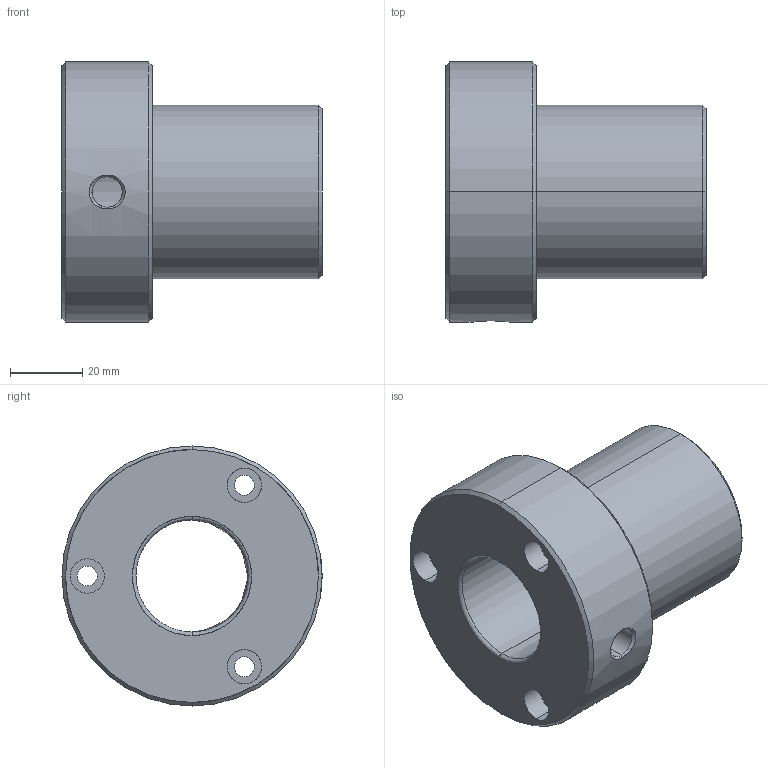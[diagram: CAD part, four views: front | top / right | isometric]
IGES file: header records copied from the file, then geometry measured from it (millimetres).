
Start section: START RECORD GO HERE.
Global section: file name: 346-31.igs; native system: DASSAULT SYSTEMES CATIA V5 R20 - www.3ds.com; preprocessor: CATIA Version 5 Release 20 ; author: Utente; organization: NB04-ASUS; date: 20201225.222625; units: millimetre
Bounding box: 72 x 72 x 72 mm (x, y, z)
Surface area: 27841.4 mm2 (no closed solid volume)
Topology: 0 solids, 0 shells, 39 faces, 292 edges, 292 vertices
Faces by surface type: revolution 32, plane 7
